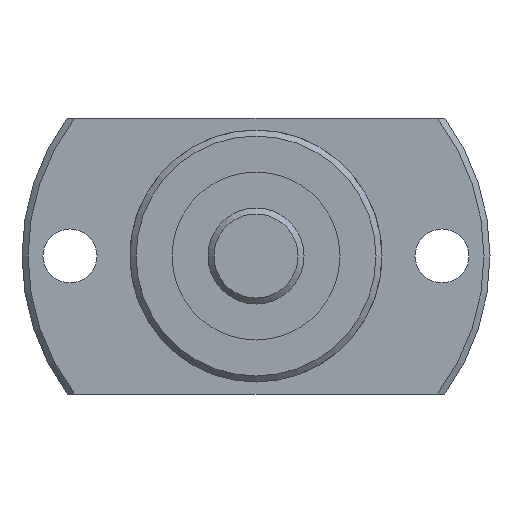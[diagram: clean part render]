
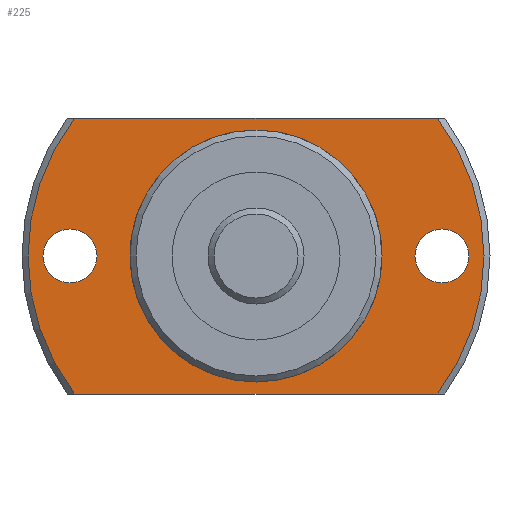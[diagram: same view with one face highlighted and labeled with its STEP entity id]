
A CAD part, left-side view. The second image highlights one B-rep face of the part: STEP entity #225.
In plain terms, the highlighted planar face has unit normal (-1, 0, 0).
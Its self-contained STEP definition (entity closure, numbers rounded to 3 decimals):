
#225 = ADVANCED_FACE( '', ( #380, #381, #382, #383 ), #384, .F. );
#380 = FACE_OUTER_BOUND( '', #559, .T. );
#381 = FACE_BOUND( '', #560, .T. );
#382 = FACE_BOUND( '', #561, .T. );
#383 = FACE_BOUND( '', #562, .T. );
#384 = PLANE( '', #563 );
#559 = EDGE_LOOP( '', ( #994, #995, #996, #997 ) );
#560 = EDGE_LOOP( '', ( #998 ) );
#561 = EDGE_LOOP( '', ( #999 ) );
#562 = EDGE_LOOP( '', ( #1000 ) );
#563 = AXIS2_PLACEMENT_3D( '', #1001, #1002, #1003 );
#994 = ORIENTED_EDGE( '', *, *, #1143, .F. );
#995 = ORIENTED_EDGE( '', *, *, #1242, .T. );
#996 = ORIENTED_EDGE( '', *, *, #1236, .F. );
#997 = ORIENTED_EDGE( '', *, *, #1137, .T. );
#998 = ORIENTED_EDGE( '', *, *, #1243, .T. );
#999 = ORIENTED_EDGE( '', *, *, #1244, .T. );
#1000 = ORIENTED_EDGE( '', *, *, #1238, .T. );
#1001 = CARTESIAN_POINT( '', ( 23., 10.25, 0. ) );
#1002 = DIRECTION( '', ( 1., 0., 0. ) );
#1003 = DIRECTION( '', ( 0., 0., -1. ) );
#1137 = EDGE_CURVE( '', #1307, #1305, #1308, .T. );
#1143 = EDGE_CURVE( '', #1318, #1305, #1319, .T. );
#1236 = EDGE_CURVE( '', #1307, #1480, #1481, .T. );
#1238 = EDGE_CURVE( '', #1483, #1483, #1484, .T. );
#1242 = EDGE_CURVE( '', #1318, #1480, #1488, .T. );
#1243 = EDGE_CURVE( '', #1489, #1489, #1490, .T. );
#1244 = EDGE_CURVE( '', #1491, #1491, #1492, .T. );
#1305 = VERTEX_POINT( '', #1568 );
#1307 = VERTEX_POINT( '', #1573 );
#1308 = LINE( '', #1574, #1575 );
#1318 = VERTEX_POINT( '', #1596 );
#1319 = CIRCLE( '', #1597, 19. );
#1480 = VERTEX_POINT( '', #1865 );
#1481 = CIRCLE( '', #1866, 19. );
#1483 = VERTEX_POINT( '', #1871 );
#1484 = CIRCLE( '', #1872, 10.25 );
#1488 = LINE( '', #1876, #1877 );
#1489 = VERTEX_POINT( '', #1878 );
#1490 = CIRCLE( '', #1879, 2.25 );
#1491 = VERTEX_POINT( '', #1880 );
#1492 = CIRCLE( '', #1881, 2.25 );
#1568 = CARTESIAN_POINT( '', ( 23., 15.124, 11.5 ) );
#1573 = CARTESIAN_POINT( '', ( 23., -15.124, 11.5 ) );
#1574 = CARTESIAN_POINT( '', ( 23., 10.25, 11.5 ) );
#1575 = VECTOR( '', #1962, 1000. );
#1596 = CARTESIAN_POINT( '', ( 23., 15.124, -11.5 ) );
#1597 = AXIS2_PLACEMENT_3D( '', #1965, #1966, #1967 );
#1865 = CARTESIAN_POINT( '', ( 23., -15.124, -11.5 ) );
#1866 = AXIS2_PLACEMENT_3D( '', #2125, #2126, #2127 );
#1871 = CARTESIAN_POINT( '', ( 23., 0., -10.25 ) );
#1872 = AXIS2_PLACEMENT_3D( '', #2128, #2129, #2130 );
#1876 = CARTESIAN_POINT( '', ( 23., 10.25, -11.5 ) );
#1877 = VECTOR( '', #2140, 1000. );
#1878 = CARTESIAN_POINT( '', ( 23., 15.5, -2.25 ) );
#1879 = AXIS2_PLACEMENT_3D( '', #2141, #2142, #2143 );
#1880 = CARTESIAN_POINT( '', ( 23., -15.5, -2.25 ) );
#1881 = AXIS2_PLACEMENT_3D( '', #2144, #2145, #2146 );
#1962 = DIRECTION( '', ( 0., 1., 0. ) );
#1965 = CARTESIAN_POINT( '', ( 23., 0., 0. ) );
#1966 = DIRECTION( '', ( 1., 0., 0. ) );
#1967 = DIRECTION( '', ( 0., 0., -1. ) );
#2125 = CARTESIAN_POINT( '', ( 23., 0., 0. ) );
#2126 = DIRECTION( '', ( 1., 0., 0. ) );
#2127 = DIRECTION( '', ( 0., 0., -1. ) );
#2128 = CARTESIAN_POINT( '', ( 23., 0., 0. ) );
#2129 = DIRECTION( '', ( 1., 0., 0. ) );
#2130 = DIRECTION( '', ( 0., 0., -1. ) );
#2140 = DIRECTION( '', ( 0., -1., 0. ) );
#2141 = CARTESIAN_POINT( '', ( 23., 15.5, 0. ) );
#2142 = DIRECTION( '', ( 1., 0., 0. ) );
#2143 = DIRECTION( '', ( 0., 0., -1. ) );
#2144 = CARTESIAN_POINT( '', ( 23., -15.5, 0. ) );
#2145 = DIRECTION( '', ( 1., 0., 0. ) );
#2146 = DIRECTION( '', ( 0., 0., -1. ) );
